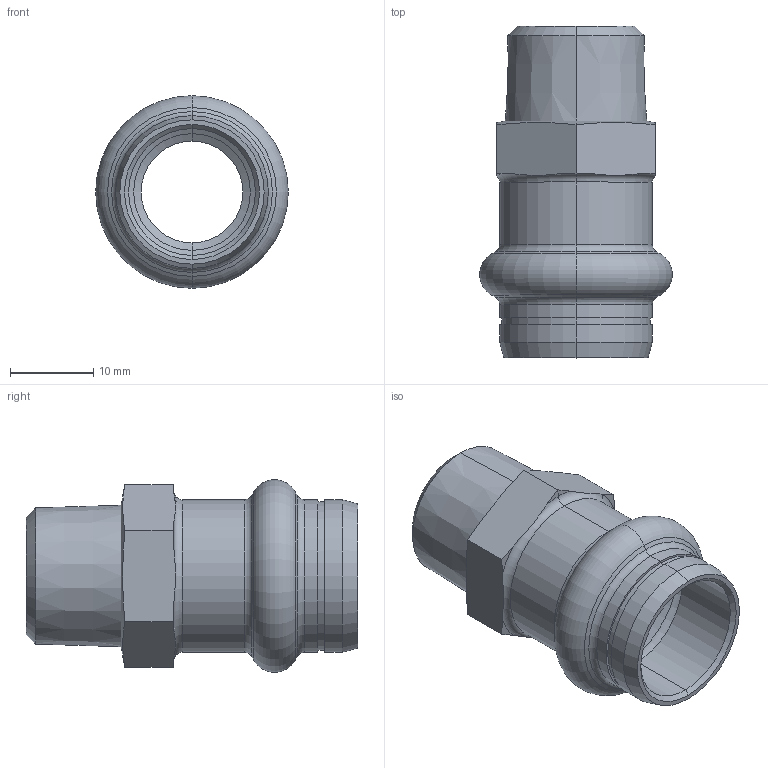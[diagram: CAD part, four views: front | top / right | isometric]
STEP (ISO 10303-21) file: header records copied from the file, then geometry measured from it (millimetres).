
FILE_DESCRIPTION (( 'STEP AP203' ), '1' );
FILE_NAME ('SP4243G Ø15 3-8.STEP', '2017-04-26T07:12:06', ( '' ), ( '' ), 'SwSTEP 2.0', 'SolidWorks 2016', '' );
FILE_SCHEMA (( 'CONFIG_CONTROL_DESIGN' ));
Length unit declared in the file: millimetre
Products named in the file (1): SP4243G Ø15 3-8
Bounding box: 23.1 x 39.8 x 23.1 mm (x, y, z)
Volume: 4277.8 mm3; surface area: 4694.4 mm2
Topology: 1 solids, 1 shells, 64 faces, 139 edges, 80 vertices
Faces by surface type: cone 27, cylinder 16, plane 11, torus 10
Entity records: 1892 total; most frequent: CARTESIAN_POINT 412, DIRECTION 317, ORIENTED_EDGE 278, EDGE_CURVE 139, AXIS2_PLACEMENT_3D 137, VERTEX_POINT 80, CIRCLE 72, EDGE_LOOP 69
